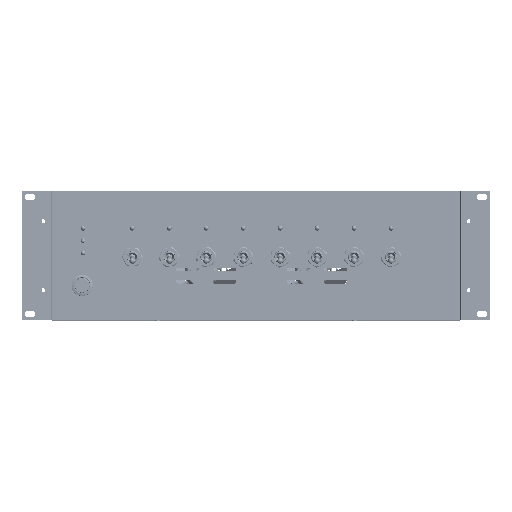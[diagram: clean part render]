
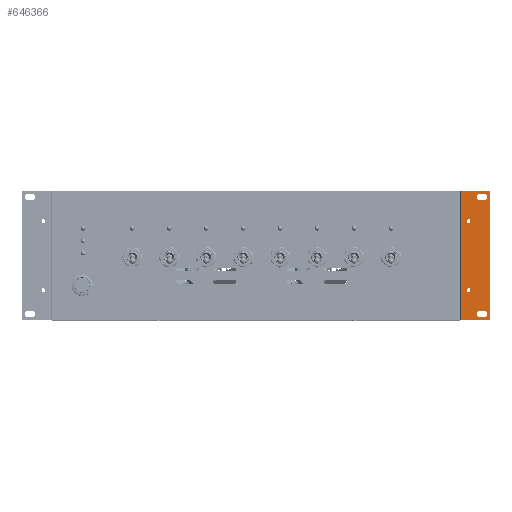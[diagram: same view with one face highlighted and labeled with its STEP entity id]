
A CAD part, top view. The second image highlights one B-rep face of the part: STEP entity #646366.
In plain terms, the highlighted planar face has unit normal (0, 0, 1).
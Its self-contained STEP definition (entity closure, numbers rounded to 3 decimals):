
#12007 = AXIS2_PLACEMENT_3D ( 'NONE', #421230, #186800, #105312 ) ;
#13361 = EDGE_CURVE ( 'NONE', #121229, #168052, #854189, .T. ) ;
#22692 = CARTESIAN_POINT ( 'NONE',  ( 446.06, 123.281, 457.2 ) ) ;
#32494 = VECTOR ( 'NONE', #543722, 1000. ) ;
#40776 = CARTESIAN_POINT ( 'NONE',  ( 446.06, 8.981, 457.2 ) ) ;
#43574 = CARTESIAN_POINT ( 'NONE',  ( 452.13, -0.163, 457.2 ) ) ;
#66842 = VERTEX_POINT ( 'NONE', #781787 ) ;
#70832 = VECTOR ( 'NONE', #340401, 1000. ) ;
#71785 = VERTEX_POINT ( 'NONE', #922097 ) ;
#72830 = ORIENTED_EDGE ( 'NONE', *, *, #227440, .T. ) ;
#74428 = ORIENTED_EDGE ( 'NONE', *, *, #881352, .T. ) ;
#90590 = EDGE_CURVE ( 'NONE', #962401, #71785, #486390, .T. ) ;
#93578 = FACE_BOUND ( 'NONE', #252738, .T. ) ;
#103093 = DIRECTION ( 'NONE',  ( -1., 0., 0. ) ) ;
#105235 = CIRCLE ( 'NONE', #527781, 1.994 ) ;
#105312 = DIRECTION ( 'NONE',  ( 0., -1., 0. ) ) ;
#106029 = LINE ( 'NONE', #493261, #70832 ) ;
#107726 = AXIS2_PLACEMENT_3D ( 'NONE', #976533, #829036, #594920 ) ;
#120429 = VERTEX_POINT ( 'NONE', #613913 ) ;
#121229 = VERTEX_POINT ( 'NONE', #783709 ) ;
#127106 = VECTOR ( 'NONE', #156653, 1000. ) ;
#135043 = LINE ( 'NONE', #43574, #794210 ) ;
#136970 = ORIENTED_EDGE ( 'NONE', *, *, #153713, .T. ) ;
#144193 = CARTESIAN_POINT ( 'NONE',  ( 430.032, 30.571, 457.2 ) ) ;
#153713 = EDGE_CURVE ( 'NONE', #190477, #971329, #270586, .T. ) ;
#156653 = DIRECTION ( 'NONE',  ( -1., 0., 0. ) ) ;
#157608 = DIRECTION ( 'NONE',  ( 0., 1., 0. ) ) ;
#168052 = VERTEX_POINT ( 'NONE', #411647 ) ;
#180127 = CARTESIAN_POINT ( 'NONE',  ( 452.13, -0.163, 457.2 ) ) ;
#185131 = PLANE ( 'NONE',  #824101 ) ;
#186800 = DIRECTION ( 'NONE',  ( 0., 0., -1. ) ) ;
#190477 = VERTEX_POINT ( 'NONE', #40776 ) ;
#215447 = CIRCLE ( 'NONE', #411141, 1.994 ) ;
#226122 = EDGE_CURVE ( 'NONE', #120429, #190477, #467345, .T. ) ;
#227440 = EDGE_CURVE ( 'NONE', #71785, #367798, #720610, .T. ) ;
#251470 = FACE_OUTER_BOUND ( 'NONE', #969577, .T. ) ;
#252738 = EDGE_LOOP ( 'NONE', ( #136970, #698640, #913318, #760106 ) ) ;
#261500 = FACE_BOUND ( 'NONE', #301677, .T. ) ;
#262420 = CARTESIAN_POINT ( 'NONE',  ( 452.13, -0.163, 457.2 ) ) ;
#265793 = ORIENTED_EDGE ( 'NONE', *, *, #693018, .T. ) ;
#270416 = EDGE_CURVE ( 'NONE', #737613, #120429, #631533, .T. ) ;
#270586 = CIRCLE ( 'NONE', #107726, 3.175 ) ;
#301677 = EDGE_LOOP ( 'NONE', ( #74428 ) ) ;
#310063 = VECTOR ( 'NONE', #591894, 1000. ) ;
#313781 = VECTOR ( 'NONE', #157608, 1000. ) ;
#340401 = DIRECTION ( 'NONE',  ( 0., 1., 0. ) ) ;
#367798 = VERTEX_POINT ( 'NONE', #957789 ) ;
#370119 = VERTEX_POINT ( 'NONE', #985855 ) ;
#373575 = DIRECTION ( 'NONE',  ( 0., 0., -1. ) ) ;
#374454 = VECTOR ( 'NONE', #878083, 1000. ) ;
#378607 = DIRECTION ( 'NONE',  ( -1., 0., 0. ) ) ;
#386887 = ORIENTED_EDGE ( 'NONE', *, *, #901002, .T. ) ;
#387930 = ORIENTED_EDGE ( 'NONE', *, *, #556464, .F. ) ;
#398859 = EDGE_CURVE ( 'NONE', #66842, #168052, #106029, .T. ) ;
#400836 = EDGE_CURVE ( 'NONE', #971329, #737613, #810320, .T. ) ;
#404428 = DIRECTION ( 'NONE',  ( 0., 0., 1. ) ) ;
#411141 = AXIS2_PLACEMENT_3D ( 'NONE', #144193, #373575, #378607 ) ;
#411647 = CARTESIAN_POINT ( 'NONE',  ( 422.65, 132.425, 457.2 ) ) ;
#419586 = FACE_BOUND ( 'NONE', #981099, .T. ) ;
#421230 = CARTESIAN_POINT ( 'NONE',  ( 441.69, 126.456, 457.2 ) ) ;
#428564 = CARTESIAN_POINT ( 'NONE',  ( 446.06, 2.631, 457.2 ) ) ;
#433278 = CARTESIAN_POINT ( 'NONE',  ( 446.06, 129.631, 457.2 ) ) ;
#451405 = EDGE_CURVE ( 'NONE', #370119, #370119, #215447, .T. ) ;
#452903 = AXIS2_PLACEMENT_3D ( 'NONE', #604041, #527749, #1000817 ) ;
#467345 = LINE ( 'NONE', #635070, #32494 ) ;
#467496 = CARTESIAN_POINT ( 'NONE',  ( 452.13, 132.425, 457.2 ) ) ;
#468749 = ORIENTED_EDGE ( 'NONE', *, *, #13361, .T. ) ;
#480868 = FACE_BOUND ( 'NONE', #977391, .T. ) ;
#482286 = ORIENTED_EDGE ( 'NONE', *, *, #904731, .T. ) ;
#486167 = VERTEX_POINT ( 'NONE', #563668 ) ;
#486390 = CIRCLE ( 'NONE', #665792, 3.175 ) ;
#493261 = CARTESIAN_POINT ( 'NONE',  ( 422.65, -0.163, 457.2 ) ) ;
#527749 = DIRECTION ( 'NONE',  ( 0., 0., -1. ) ) ;
#527781 = AXIS2_PLACEMENT_3D ( 'NONE', #627943, #953306, #103093 ) ;
#543722 = DIRECTION ( 'NONE',  ( 1., 0., 0. ) ) ;
#544823 = LINE ( 'NONE', #554814, #313781 ) ;
#547284 = ORIENTED_EDGE ( 'NONE', *, *, #90590, .T. ) ;
#553640 = VECTOR ( 'NONE', #815319, 1000. ) ;
#554814 = CARTESIAN_POINT ( 'NONE',  ( 452.13, -0.163, 457.2 ) ) ;
#556464 = EDGE_CURVE ( 'NONE', #932116, #66842, #135043, .T. ) ;
#563668 = CARTESIAN_POINT ( 'NONE',  ( 441.69, 129.631, 457.2 ) ) ;
#591894 = DIRECTION ( 'NONE',  ( 1., 0., 0. ) ) ;
#594920 = DIRECTION ( 'NONE',  ( 0., 1., 0. ) ) ;
#604041 = CARTESIAN_POINT ( 'NONE',  ( 441.69, 5.806, 457.2 ) ) ;
#613913 = CARTESIAN_POINT ( 'NONE',  ( 441.69, 8.981, 457.2 ) ) ;
#627943 = CARTESIAN_POINT ( 'NONE',  ( 430.032, 101.691, 457.2 ) ) ;
#631533 = CIRCLE ( 'NONE', #452903, 3.175 ) ;
#635070 = CARTESIAN_POINT ( 'NONE',  ( 441.69, 8.981, 457.2 ) ) ;
#646366 = ADVANCED_FACE ( 'NONE', ( #261500, #480868, #419586, #93578, #251470 ), #185131, .T. ) ;
#662763 = CIRCLE ( 'NONE', #12007, 3.175 ) ;
#665792 = AXIS2_PLACEMENT_3D ( 'NONE', #801219, #877465, #806249 ) ;
#690553 = ORIENTED_EDGE ( 'NONE', *, *, #398859, .F. ) ;
#693018 = EDGE_CURVE ( 'NONE', #932116, #121229, #544823, .T. ) ;
#698640 = ORIENTED_EDGE ( 'NONE', *, *, #400836, .T. ) ;
#720610 = LINE ( 'NONE', #22692, #374454 ) ;
#730029 = DIRECTION ( 'NONE',  ( 1., 0., 0. ) ) ;
#737613 = VERTEX_POINT ( 'NONE', #920030 ) ;
#739211 = VERTEX_POINT ( 'NONE', #891710 ) ;
#760106 = ORIENTED_EDGE ( 'NONE', *, *, #226122, .T. ) ;
#765974 = CARTESIAN_POINT ( 'NONE',  ( 446.06, 2.631, 457.2 ) ) ;
#781787 = CARTESIAN_POINT ( 'NONE',  ( 422.65, -0.163, 457.2 ) ) ;
#783709 = CARTESIAN_POINT ( 'NONE',  ( 452.13, 132.425, 457.2 ) ) ;
#794210 = VECTOR ( 'NONE', #975197, 1000. ) ;
#801219 = CARTESIAN_POINT ( 'NONE',  ( 446.06, 126.456, 457.2 ) ) ;
#805975 = CARTESIAN_POINT ( 'NONE',  ( 441.69, 129.631, 457.2 ) ) ;
#806249 = DIRECTION ( 'NONE',  ( 0., 1., 0. ) ) ;
#810320 = LINE ( 'NONE', #428564, #553640 ) ;
#815319 = DIRECTION ( 'NONE',  ( -1., 0., 0. ) ) ;
#824101 = AXIS2_PLACEMENT_3D ( 'NONE', #180127, #404428, #730029 ) ;
#829036 = DIRECTION ( 'NONE',  ( 0., 0., -1. ) ) ;
#854189 = LINE ( 'NONE', #467496, #127106 ) ;
#877465 = DIRECTION ( 'NONE',  ( 0., 0., -1. ) ) ;
#878083 = DIRECTION ( 'NONE',  ( -1., 0., 0. ) ) ;
#881352 = EDGE_CURVE ( 'NONE', #739211, #739211, #105235, .T. ) ;
#882118 = LINE ( 'NONE', #805975, #310063 ) ;
#891710 = CARTESIAN_POINT ( 'NONE',  ( 428.038, 101.691, 457.2 ) ) ;
#901002 = EDGE_CURVE ( 'NONE', #367798, #486167, #662763, .T. ) ;
#904731 = EDGE_CURVE ( 'NONE', #486167, #962401, #882118, .T. ) ;
#913318 = ORIENTED_EDGE ( 'NONE', *, *, #270416, .T. ) ;
#920030 = CARTESIAN_POINT ( 'NONE',  ( 441.69, 2.631, 457.2 ) ) ;
#922097 = CARTESIAN_POINT ( 'NONE',  ( 446.06, 123.281, 457.2 ) ) ;
#932116 = VERTEX_POINT ( 'NONE', #262420 ) ;
#953306 = DIRECTION ( 'NONE',  ( 0., 0., -1. ) ) ;
#957789 = CARTESIAN_POINT ( 'NONE',  ( 441.69, 123.281, 457.2 ) ) ;
#962401 = VERTEX_POINT ( 'NONE', #433278 ) ;
#969577 = EDGE_LOOP ( 'NONE', ( #468749, #690553, #387930, #265793 ) ) ;
#971329 = VERTEX_POINT ( 'NONE', #765974 ) ;
#975197 = DIRECTION ( 'NONE',  ( -1., 0., 0. ) ) ;
#976533 = CARTESIAN_POINT ( 'NONE',  ( 446.06, 5.806, 457.2 ) ) ;
#977391 = EDGE_LOOP ( 'NONE', ( #996012 ) ) ;
#981099 = EDGE_LOOP ( 'NONE', ( #72830, #386887, #482286, #547284 ) ) ;
#985855 = CARTESIAN_POINT ( 'NONE',  ( 428.038, 30.571, 457.2 ) ) ;
#996012 = ORIENTED_EDGE ( 'NONE', *, *, #451405, .T. ) ;
#1000817 = DIRECTION ( 'NONE',  ( 0., -1., 0. ) ) ;
